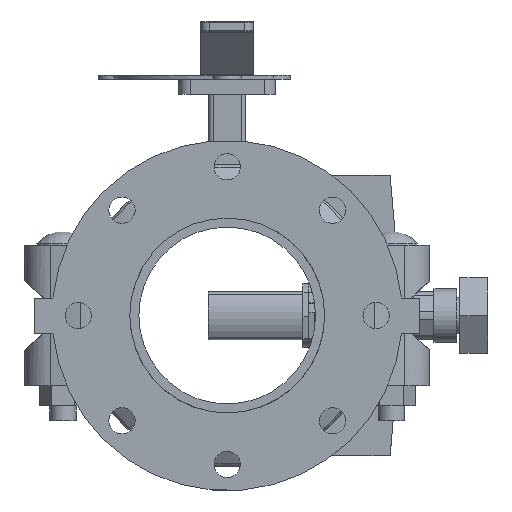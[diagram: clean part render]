
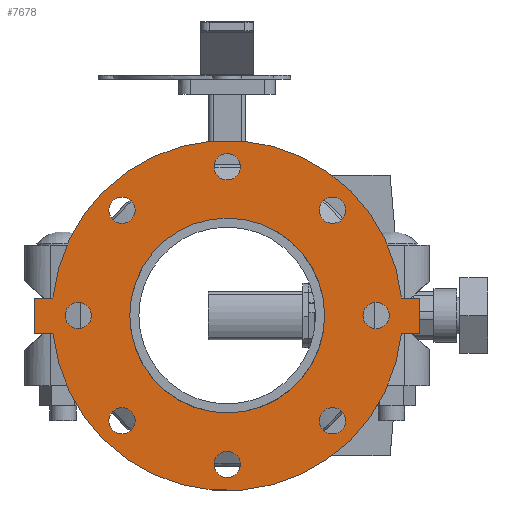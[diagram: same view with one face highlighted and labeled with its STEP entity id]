
A CAD part, front view. The second image highlights one B-rep face of the part: STEP entity #7678.
In plain terms, the highlighted planar face has unit normal (0, -1, 0) as drawn and (0, 0, -1) by its records, which use the part's own axes.
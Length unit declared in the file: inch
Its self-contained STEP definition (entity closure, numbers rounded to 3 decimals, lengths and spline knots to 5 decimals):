
#202=FACE_BOUND('',#979,.T.);
#203=FACE_BOUND('',#980,.T.);
#204=FACE_BOUND('',#981,.T.);
#205=FACE_BOUND('',#982,.T.);
#206=FACE_BOUND('',#983,.T.);
#207=FACE_BOUND('',#984,.T.);
#208=FACE_BOUND('',#985,.T.);
#209=FACE_BOUND('',#986,.T.);
#210=FACE_BOUND('',#987,.T.);
#303=PLANE('',#8318);
#555=FACE_OUTER_BOUND('',#978,.T.);
#978=EDGE_LOOP('',(#4943,#4944,#4945,#4946,#4947,#4948,#4949,#4950));
#979=EDGE_LOOP('',(#4951));
#980=EDGE_LOOP('',(#4952));
#981=EDGE_LOOP('',(#4953));
#982=EDGE_LOOP('',(#4954));
#983=EDGE_LOOP('',(#4955));
#984=EDGE_LOOP('',(#4956));
#985=EDGE_LOOP('',(#4957));
#986=EDGE_LOOP('',(#4958));
#987=EDGE_LOOP('',(#4959,#4960));
#1502=LINE('',#11685,#2080);
#1503=LINE('',#11687,#2081);
#1504=LINE('',#11689,#2082);
#1505=LINE('',#11693,#2083);
#1506=LINE('',#11695,#2084);
#1507=LINE('',#11696,#2085);
#2080=VECTOR('',#9276,0.3937);
#2081=VECTOR('',#9277,0.3937);
#2082=VECTOR('',#9278,0.3937);
#2083=VECTOR('',#9281,0.3937);
#2084=VECTOR('',#9282,0.3937);
#2085=VECTOR('',#9283,0.3937);
#2651=CIRCLE('',#8296,0.375);
#2653=CIRCLE('',#8299,0.375);
#2655=CIRCLE('',#8302,0.375);
#2657=CIRCLE('',#8305,0.375);
#2659=CIRCLE('',#8308,0.375);
#2661=CIRCLE('',#8311,0.375);
#2663=CIRCLE('',#8314,0.375);
#2665=CIRCLE('',#8317,0.375);
#2666=CIRCLE('',#8319,5.);
#2667=CIRCLE('',#8320,5.);
#2668=CIRCLE('',#8321,2.7815);
#2669=CIRCLE('',#8322,2.7815);
#3092=VERTEX_POINT('',#11635);
#3094=VERTEX_POINT('',#11641);
#3096=VERTEX_POINT('',#11647);
#3098=VERTEX_POINT('',#11653);
#3100=VERTEX_POINT('',#11659);
#3102=VERTEX_POINT('',#11665);
#3104=VERTEX_POINT('',#11671);
#3106=VERTEX_POINT('',#11677);
#3107=VERTEX_POINT('',#11681);
#3108=VERTEX_POINT('',#11682);
#3109=VERTEX_POINT('',#11684);
#3110=VERTEX_POINT('',#11686);
#3111=VERTEX_POINT('',#11688);
#3112=VERTEX_POINT('',#11690);
#3113=VERTEX_POINT('',#11692);
#3114=VERTEX_POINT('',#11694);
#3115=VERTEX_POINT('',#11697);
#3116=VERTEX_POINT('',#11698);
#3826=EDGE_CURVE('',#3092,#3092,#2651,.T.);
#3829=EDGE_CURVE('',#3094,#3094,#2653,.T.);
#3832=EDGE_CURVE('',#3096,#3096,#2655,.T.);
#3835=EDGE_CURVE('',#3098,#3098,#2657,.T.);
#3838=EDGE_CURVE('',#3100,#3100,#2659,.T.);
#3841=EDGE_CURVE('',#3102,#3102,#2661,.T.);
#3844=EDGE_CURVE('',#3104,#3104,#2663,.T.);
#3847=EDGE_CURVE('',#3106,#3106,#2665,.T.);
#3848=EDGE_CURVE('',#3107,#3108,#2666,.T.);
#3849=EDGE_CURVE('',#3108,#3109,#1502,.T.);
#3850=EDGE_CURVE('',#3109,#3110,#1503,.T.);
#3851=EDGE_CURVE('',#3110,#3111,#1504,.T.);
#3852=EDGE_CURVE('',#3111,#3112,#2667,.T.);
#3853=EDGE_CURVE('',#3112,#3113,#1505,.T.);
#3854=EDGE_CURVE('',#3113,#3114,#1506,.T.);
#3855=EDGE_CURVE('',#3114,#3107,#1507,.T.);
#3856=EDGE_CURVE('',#3115,#3116,#2668,.T.);
#3857=EDGE_CURVE('',#3116,#3115,#2669,.T.);
#4943=ORIENTED_EDGE('',*,*,#3848,.T.);
#4944=ORIENTED_EDGE('',*,*,#3849,.T.);
#4945=ORIENTED_EDGE('',*,*,#3850,.T.);
#4946=ORIENTED_EDGE('',*,*,#3851,.T.);
#4947=ORIENTED_EDGE('',*,*,#3852,.T.);
#4948=ORIENTED_EDGE('',*,*,#3853,.T.);
#4949=ORIENTED_EDGE('',*,*,#3854,.T.);
#4950=ORIENTED_EDGE('',*,*,#3855,.T.);
#4951=ORIENTED_EDGE('',*,*,#3826,.T.);
#4952=ORIENTED_EDGE('',*,*,#3829,.T.);
#4953=ORIENTED_EDGE('',*,*,#3832,.T.);
#4954=ORIENTED_EDGE('',*,*,#3835,.T.);
#4955=ORIENTED_EDGE('',*,*,#3838,.T.);
#4956=ORIENTED_EDGE('',*,*,#3841,.T.);
#4957=ORIENTED_EDGE('',*,*,#3844,.T.);
#4958=ORIENTED_EDGE('',*,*,#3847,.T.);
#4959=ORIENTED_EDGE('',*,*,#3856,.T.);
#4960=ORIENTED_EDGE('',*,*,#3857,.T.);
#7678=ADVANCED_FACE('',(#555,#202,#203,#204,#205,#206,#207,#208,#209,#210),
#303,.T.);
#8296=AXIS2_PLACEMENT_3D('',#11637,#9221,#9222);
#8299=AXIS2_PLACEMENT_3D('',#11643,#9228,#9229);
#8302=AXIS2_PLACEMENT_3D('',#11649,#9235,#9236);
#8305=AXIS2_PLACEMENT_3D('',#11655,#9242,#9243);
#8308=AXIS2_PLACEMENT_3D('',#11661,#9249,#9250);
#8311=AXIS2_PLACEMENT_3D('',#11667,#9256,#9257);
#8314=AXIS2_PLACEMENT_3D('',#11673,#9263,#9264);
#8317=AXIS2_PLACEMENT_3D('',#11679,#9270,#9271);
#8318=AXIS2_PLACEMENT_3D('',#11680,#9272,#9273);
#8319=AXIS2_PLACEMENT_3D('',#11683,#9274,#9275);
#8320=AXIS2_PLACEMENT_3D('',#11691,#9279,#9280);
#8321=AXIS2_PLACEMENT_3D('',#11699,#9284,#9285);
#8322=AXIS2_PLACEMENT_3D('',#11700,#9286,#9287);
#9221=DIRECTION('center_axis',(0.,0.,1.));
#9222=DIRECTION('ref_axis',(-0.707,0.707,0.));
#9228=DIRECTION('center_axis',(0.,0.,1.));
#9229=DIRECTION('ref_axis',(0.,1.,0.));
#9235=DIRECTION('center_axis',(0.,0.,1.));
#9236=DIRECTION('ref_axis',(0.707,0.707,0.));
#9242=DIRECTION('center_axis',(0.,0.,1.));
#9243=DIRECTION('ref_axis',(1.,0.,0.));
#9249=DIRECTION('center_axis',(0.,0.,1.));
#9250=DIRECTION('ref_axis',(0.707,-0.707,0.));
#9256=DIRECTION('center_axis',(0.,0.,1.));
#9257=DIRECTION('ref_axis',(0.,-1.,0.));
#9263=DIRECTION('center_axis',(0.,0.,1.));
#9264=DIRECTION('ref_axis',(-0.707,-0.707,0.));
#9270=DIRECTION('center_axis',(0.,0.,1.));
#9271=DIRECTION('ref_axis',(-1.,0.,0.));
#9272=DIRECTION('center_axis',(0.,0.,-1.));
#9273=DIRECTION('ref_axis',(-1.,0.,0.));
#9274=DIRECTION('center_axis',(0.,0.,-1.));
#9275=DIRECTION('ref_axis',(-1.,0.,0.));
#9276=DIRECTION('',(0.,1.,0.));
#9277=DIRECTION('',(1.,0.,0.));
#9278=DIRECTION('',(0.,-1.,0.));
#9279=DIRECTION('center_axis',(0.,0.,-1.));
#9280=DIRECTION('ref_axis',(-1.,0.,0.));
#9281=DIRECTION('',(0.,-1.,0.));
#9282=DIRECTION('',(-1.,0.,0.));
#9283=DIRECTION('',(0.,1.,0.));
#9284=DIRECTION('center_axis',(0.,0.,1.));
#9285=DIRECTION('ref_axis',(-1.,0.,0.));
#9286=DIRECTION('center_axis',(0.,0.,1.));
#9287=DIRECTION('ref_axis',(-1.,0.,0.));
#11635=CARTESIAN_POINT('',(-2.74004,2.74004,-0.5));
#11637=CARTESIAN_POINT('Origin',(-3.0052,3.0052,-0.5));
#11641=CARTESIAN_POINT('',(0.,3.875,-0.5));
#11643=CARTESIAN_POINT('Origin',(0.,4.25,-0.5));
#11647=CARTESIAN_POINT('',(2.74004,2.74004,-0.5));
#11649=CARTESIAN_POINT('Origin',(3.0052,3.0052,-0.5));
#11653=CARTESIAN_POINT('',(3.875,0.,-0.5));
#11655=CARTESIAN_POINT('Origin',(4.25,0.,-0.5));
#11659=CARTESIAN_POINT('',(2.74004,-2.74004,-0.5));
#11661=CARTESIAN_POINT('Origin',(3.0052,-3.0052,-0.5));
#11665=CARTESIAN_POINT('',(0.,-3.875,-0.5));
#11667=CARTESIAN_POINT('Origin',(0.,-4.25,-0.5));
#11671=CARTESIAN_POINT('',(-2.74004,-2.74004,-0.5));
#11673=CARTESIAN_POINT('Origin',(-3.0052,-3.0052,-0.5));
#11677=CARTESIAN_POINT('',(-3.875,0.,-0.5));
#11679=CARTESIAN_POINT('Origin',(-4.25,0.,-0.5));
#11680=CARTESIAN_POINT('Origin',(0.,0.,-0.5));
#11681=CARTESIAN_POINT('',(-0.5,-4.97494,-0.5));
#11682=CARTESIAN_POINT('',(-0.5,4.97494,-0.5));
#11683=CARTESIAN_POINT('Origin',(0.,0.,-0.5));
#11684=CARTESIAN_POINT('',(-0.5,5.5,-0.5));
#11685=CARTESIAN_POINT('',(-0.5,-5.5,-0.5));
#11686=CARTESIAN_POINT('',(0.5,5.5,-0.5));
#11687=CARTESIAN_POINT('',(-0.5,5.5,-0.5));
#11688=CARTESIAN_POINT('',(0.5,4.97494,-0.5));
#11689=CARTESIAN_POINT('',(0.5,5.5,-0.5));
#11690=CARTESIAN_POINT('',(0.5,-4.97494,-0.5));
#11691=CARTESIAN_POINT('Origin',(0.,0.,-0.5));
#11692=CARTESIAN_POINT('',(0.5,-5.5,-0.5));
#11693=CARTESIAN_POINT('',(0.5,5.5,-0.5));
#11694=CARTESIAN_POINT('',(-0.5,-5.5,-0.5));
#11695=CARTESIAN_POINT('',(0.5,-5.5,-0.5));
#11696=CARTESIAN_POINT('',(-0.5,-5.5,-0.5));
#11697=CARTESIAN_POINT('',(0.5,2.73619,-0.5));
#11698=CARTESIAN_POINT('',(2.7815,0.,-0.5));
#11699=CARTESIAN_POINT('Origin',(0.,0.,-0.5));
#11700=CARTESIAN_POINT('Origin',(0.,0.,-0.5));
